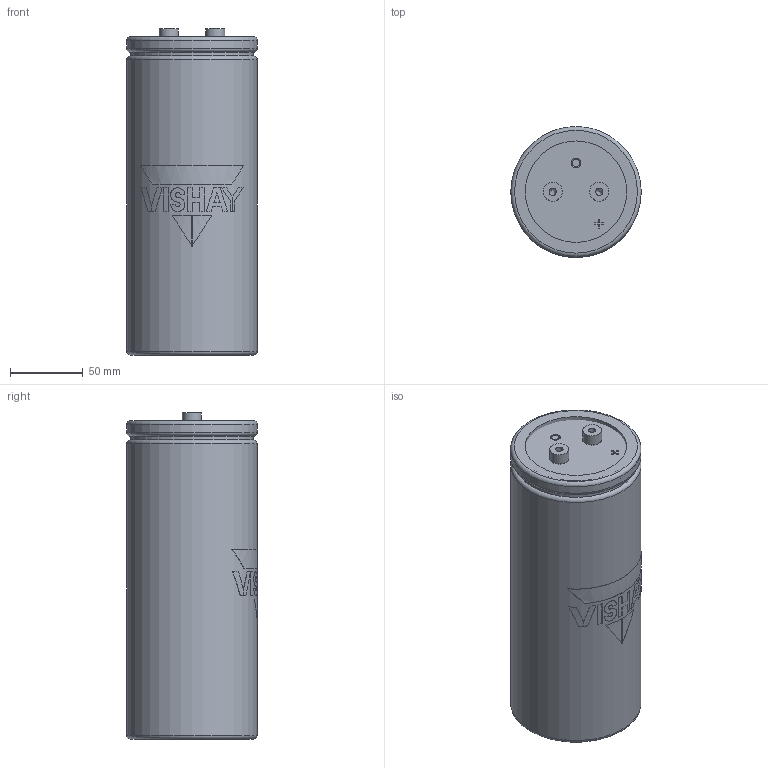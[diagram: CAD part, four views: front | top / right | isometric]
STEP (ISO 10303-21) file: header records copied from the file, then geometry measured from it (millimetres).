
FILE_DESCRIPTION(('FreeCAD Model'),'2;1');
FILE_NAME('C:/Users/tvandesteeg/Documents/Documents/FreeCAD/Stepfiles/ST capacitors/ST_HP_13mm_M6_90x220.step','2020-12-14T16:39:22',('Author'),( ''),'Open CASCADE STEP processor 7.3','FreeCAD','Unknown');
FILE_SCHEMA(('AUTOMOTIVE_DESIGN { 1 0 10303 214 1 1 1 1 }'));
Length unit declared in the file: millimetre
Products named in the file (8): VentBody; BottomBody; TerminalBody_(Mirror_#2); TerminalBody; Disc; LogoPrint; CanBody; TerminalHole
Bounding box: 89.4 x 89.5 x 223.4 mm (x, y, z)
Volume: 1366707.1 mm3; surface area: 109315.7 mm2
Topology: 18 solids, 18 shells, 152 faces, 316 edges, 208 vertices
Faces by surface type: plane 95, cylinder 49, torus 5, cone 3
Full cylindrical faces by diameter (mm): 5 x4, 13 x2, 13.05 x7, 13.1 x2, 69.533 x3, 79 x2, 84.2 x1, 89.4 x2
Entity records: 10741 total; most frequent: CARTESIAN_POINT 3347, DIRECTION 1221, ORIENTED_EDGE 628, PCURVE 628, DEFINITIONAL_REPRESENTATION 628, LINE 537, VECTOR 537, EDGE_CURVE 314
